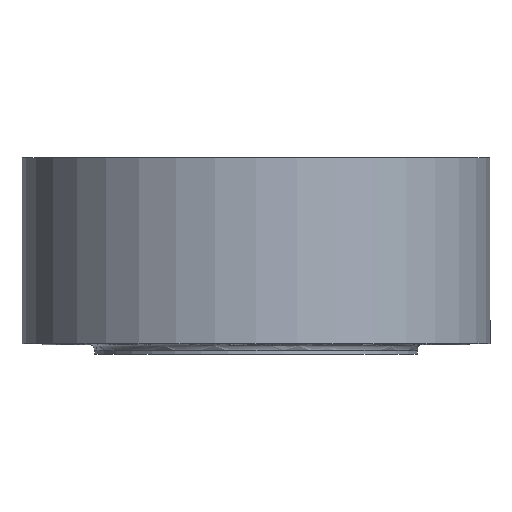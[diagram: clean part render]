
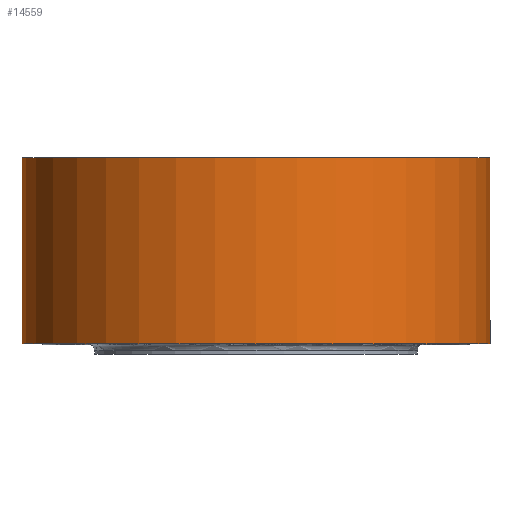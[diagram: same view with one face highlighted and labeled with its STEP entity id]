
A CAD part, front view. The second image highlights one B-rep face of the part: STEP entity #14559.
In plain terms, the highlighted cylindrical face has radius 100 mm (diameter 200 mm), a full revolution.
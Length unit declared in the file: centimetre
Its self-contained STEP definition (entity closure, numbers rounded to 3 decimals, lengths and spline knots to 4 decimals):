
#4895=FACE_BOUND('',#6467,.T.);
#5636=FACE_OUTER_BOUND('',#6466,.T.);
#6466=EDGE_LOOP('',(#13726));
#6467=EDGE_LOOP('',(#13727));
#6567=CIRCLE('',#15148,10.);
#6585=CIRCLE('',#15179,10.);
#7899=VERTEX_POINT('',#24844);
#7917=VERTEX_POINT('',#24893);
#9858=EDGE_CURVE('',#7899,#7899,#6567,.T.);
#9876=EDGE_CURVE('',#7917,#7917,#6585,.T.);
#13726=ORIENTED_EDGE('',*,*,#9876,.T.);
#13727=ORIENTED_EDGE('',*,*,#9858,.F.);
#13822=CYLINDRICAL_SURFACE('',#15178,10.);
#14559=ADVANCED_FACE('',(#5636,#4895),#13822,.T.);
#15148=AXIS2_PLACEMENT_3D('',#24845,#17809,#17810);
#15178=AXIS2_PLACEMENT_3D('',#24892,#17869,#17870);
#15179=AXIS2_PLACEMENT_3D('',#24894,#17871,#17872);
#17809=DIRECTION('center_axis',(0.,0.,
1.));
#17810=DIRECTION('ref_axis',(-1.,0.,0.));
#17869=DIRECTION('center_axis',(0.,0.,
1.));
#17870=DIRECTION('ref_axis',(-1.,0.,0.));
#17871=DIRECTION('center_axis',(0.,0.,1.));
#17872=DIRECTION('ref_axis',(-1.,0.,0.));
#24844=CARTESIAN_POINT('',(10.,0.,6.4));
#24845=CARTESIAN_POINT('Origin',(0.,0.,
6.4));
#24892=CARTESIAN_POINT('Origin',(0.,0.,
4.4));
#24893=CARTESIAN_POINT('',(-10.,0.,-1.55));
#24894=CARTESIAN_POINT('Origin',(0.,0.,-1.55));
